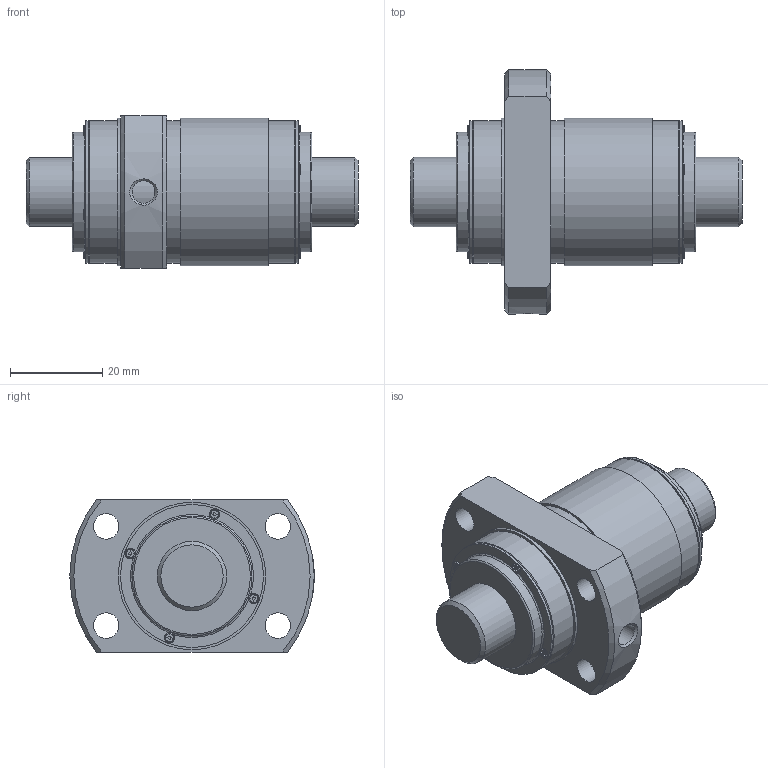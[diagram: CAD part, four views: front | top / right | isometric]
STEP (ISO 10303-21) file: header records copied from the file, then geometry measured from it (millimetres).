
FILE_DESCRIPTION(/* description */ ('STEP AP203'),/* implementation_level */ '2;1');
FILE_NAME(/* name */ 'WTF1520-6ZZ+72LC7T_000_rev',/* time_stamp */ '2025-06-11T06:38:51+02:00',/* author */ ('License CC BY-ND 4.0'),/* organization */ ('CADENAS'),/* preprocessor_version */ 'ST-DEVELOPER v19.3',/* originating_system */ 'PARTsolutions',/* authorisation */ ' ');
FILE_SCHEMA (('CONFIG_CONTROL_DESIGN'));
Length unit declared in the file: millimetre
Products named in the file (3): WTF1520-6ZZ+72LC7T_000_rev; WTF1520-60ZZ0 Shaft; WTF1520-6ZZ Nut
Assembly tree (2 placements, depth 2):
  WTF1520-6ZZ+72LC7T_000_rev
    WTF1520-60ZZ0 Shaft
    WTF1520-6ZZ Nut
Bounding box: 72 x 53 x 33 mm (x, y, z)
Volume: 49785.1 mm3; surface area: 15505.7 mm2
Topology: 2 solids, 2 shells, 206 faces, 539 edges, 354 vertices
Faces by surface type: plane 127, cylinder 58, torus 12, cone 9
Full cylindrical faces by diameter (mm): 2.24 x8, 4.917 x1, 5.5 x4, 15 x2, 26 x2, 31 x5, 32 x2
Entity records: 6151 total; most frequent: CARTESIAN_POINT 1115, DIRECTION 1028, ORIENTED_EDGE 974, EDGE_CURVE 487, AXIS2_PLACEMENT_3D 350, VERTEX_POINT 343, LINE 328, VECTOR 328
